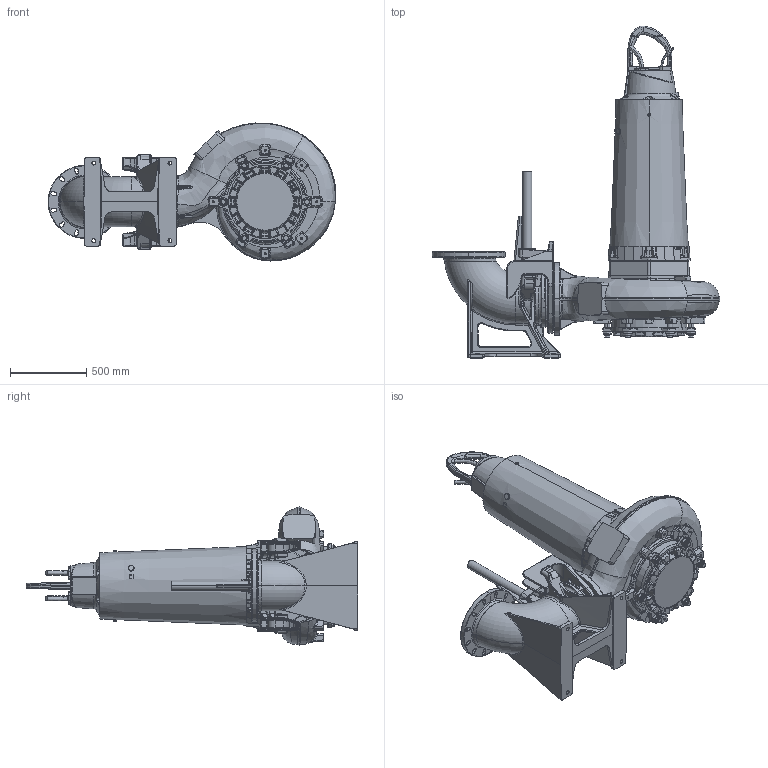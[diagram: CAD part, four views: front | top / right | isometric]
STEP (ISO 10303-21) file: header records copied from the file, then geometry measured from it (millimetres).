
FILE_DESCRIPTION (( 'STEP AP214' ), '1' );
FILE_NAME ('PE5_XFP305M-CB2_WET_B_NG2.STEP', '2017-03-13T08:24:02', ( '' ), ( '' ), 'SwSTEP 2.0', 'SolidWorks 2017', '' );
FILE_SCHEMA (( 'AUTOMOTIVE_DESIGN' ));
Length unit declared in the file: millimetre
Products named in the file (1): PE5_XFP305M-CB2_WET_B_NG2
Bounding box: 1889.63 x 2179.99 x 906.41 mm (x, y, z)
Volume: 97660901.5 mm3; surface area: 8870570.7 mm2
Topology: 30 solids, 31 shells, 4757 faces, 11684 edges, 6897 vertices
Faces by surface type: bspline 1390, cylinder 1333, plane 985, torus 460, cone 441, sphere 148
Entity records: 284555 total; most frequent: CARTESIAN_POINT 132545, ORIENTED_EDGE 22970, DIRECTION 18256, EDGE_CURVE 11485, AXIS2_PLACEMENT_3D 7447, VERTEX_POINT 6889, EDGE_LOOP 5002, UNCERTAINTY_MEASURE_WITH_UNIT 4764
